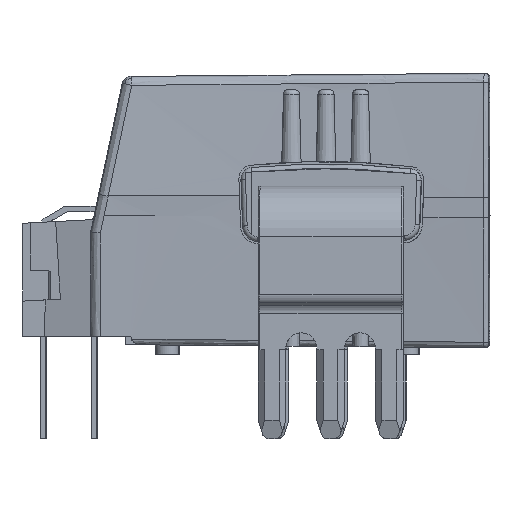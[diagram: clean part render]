
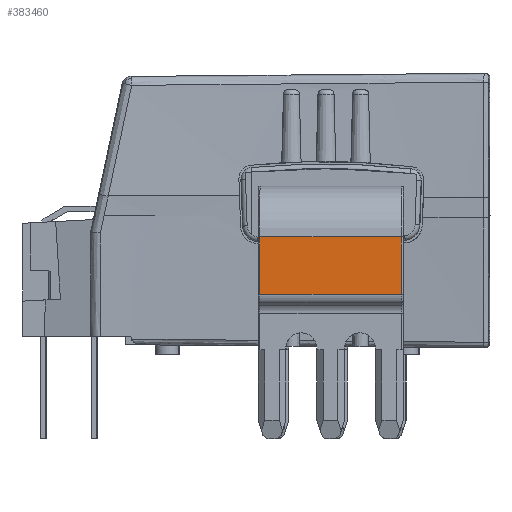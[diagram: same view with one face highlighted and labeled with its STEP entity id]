
A CAD part, left-side view. The second image highlights one B-rep face of the part: STEP entity #383460.
In plain terms, the highlighted planar face has unit normal (-1, 0.006, 0) as drawn and (0, 0, 1) by its records, which use the part's own axes.
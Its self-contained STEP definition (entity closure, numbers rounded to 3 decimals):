
#383070=CARTESIAN_POINT('',(56.847,10.155,10.613))
;
#383080=DIRECTION('',(0.,0.,1.));
#383090=DIRECTION('',(1.,0.,0.));
#383100=AXIS2_PLACEMENT_3D('',#383070,#383080,#383090);
#383110=PLANE('',#383100);
#383120=CARTESIAN_POINT('',(53.247,0.195,10.613)
);
#383130=DIRECTION('',(0.,-1.,0.));
#383140=VECTOR('',#383130,1.);
#383150=LINE('',#383120,#383140);
#383160=CARTESIAN_POINT('',(53.247,16.36,10.613))
;
#383170=VERTEX_POINT('',#383160);
#383180=CARTESIAN_POINT('',(53.247,10.23,10.613))
;
#383190=VERTEX_POINT('',#383180);
#383200=EDGE_CURVE('',#383170,#383190,#383150,.T.);
#383210=ORIENTED_EDGE('',*,*,#383200,.T.);
#383220=CARTESIAN_POINT('',(52.347,16.36,10.613))
;
#383230=DIRECTION('',(-1.,0.,0.));
#383240=VECTOR('',#383230,1.);
#383250=LINE('',#383220,#383240);
#383260=CARTESIAN_POINT('',(55.74,16.36,
10.613));
#383270=VERTEX_POINT('',#383260);
#383280=EDGE_CURVE('',#383270,#383170,#383250,.T.);
#383290=ORIENTED_EDGE('',*,*,#383280,.T.);
#383300=CARTESIAN_POINT('',(55.74,0.195,
10.613));
#383310=DIRECTION('',(0.,-1.,0.));
#383320=VECTOR('',#383310,1.);
#383330=LINE('',#383300,#383320);
#383340=CARTESIAN_POINT('',(55.74,10.23,
10.613));
#383350=VERTEX_POINT('',#383340);
#383360=EDGE_CURVE('',#383270,#383350,#383330,.T.);
#383370=ORIENTED_EDGE('',*,*,#383360,.F.);
#383380=CARTESIAN_POINT('',(52.347,10.23,10.613))
;
#383390=DIRECTION('',(-1.,0.,0.));
#383400=VECTOR('',#383390,1.);
#383410=LINE('',#383380,#383400);
#383420=EDGE_CURVE('',#383350,#383190,#383410,.T.);
#383430=ORIENTED_EDGE('',*,*,#383420,.F.);
#383440=EDGE_LOOP('',(#383430,#383370,#383290,#383210));
#383450=FACE_OUTER_BOUND('',#383440,.T.);
#383460=ADVANCED_FACE('',(#383450),#383110,.T.);
